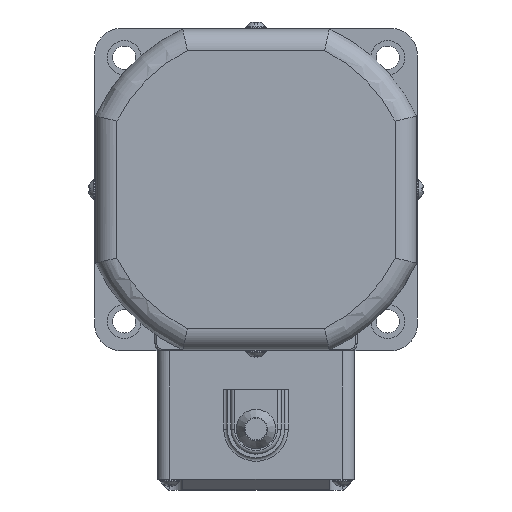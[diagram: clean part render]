
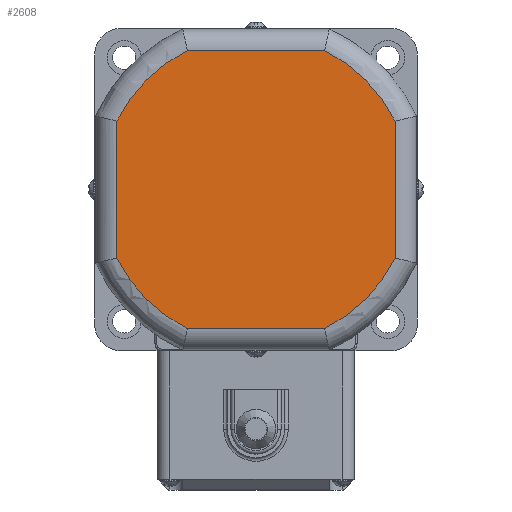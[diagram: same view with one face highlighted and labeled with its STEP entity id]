
A CAD part, left-side view. The second image highlights one B-rep face of the part: STEP entity #2608.
In plain terms, the highlighted planar face has unit normal (-1, 0, 0).
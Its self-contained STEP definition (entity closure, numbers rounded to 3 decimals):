
#2533=CARTESIAN_POINT('',(-17.8,0.,0.));
#2534=DIRECTION('',(1.0,0.0,0.0));
#2535=DIRECTION('',(0.0,0.0,-1.0));
#2536=AXIS2_PLACEMENT_3D('',#2533,#2534,#2535);
#2537=PLANE('',#2536);
#2538=CARTESIAN_POINT('',(-17.8,38.8,-19.108));
#2539=VERTEX_POINT('',#2538);
#2540=CARTESIAN_POINT('',(-17.8,38.8,19.108));
#2541=VERTEX_POINT('',#2540);
#2542=CARTESIAN_POINT('',(-17.8,38.8,-19.108));
#2543=DIRECTION('',(0.0,0.0,1.0));
#2544=VECTOR('',#2543,38.216);
#2545=LINE('',#2542,#2544);
#2546=EDGE_CURVE('',#2539,#2541,#2545,.T.);
#2547=ORIENTED_EDGE('',*,*,#2546,.F.);
#2548=CARTESIAN_POINT('',(-17.8,19.108,-38.8));
#2549=VERTEX_POINT('',#2548);
#2550=CARTESIAN_POINT('',(-17.8,0.,0.));
#2551=DIRECTION('',(1.,0.,0.));
#2552=DIRECTION('',(0.,0.707,-0.707));
#2553=AXIS2_PLACEMENT_3D('',#2550,#2551,#2552);
#2554=CIRCLE('',#2553,43.25);
#2555=EDGE_CURVE('',#2549,#2539,#2554,.T.);
#2556=ORIENTED_EDGE('',*,*,#2555,.F.);
#2557=CARTESIAN_POINT('',(-17.8,-19.108,-38.8));
#2558=VERTEX_POINT('',#2557);
#2559=CARTESIAN_POINT('',(-17.8,-19.108,-38.8));
#2560=DIRECTION('',(0.0,1.0,0.0));
#2561=VECTOR('',#2560,38.216);
#2562=LINE('',#2559,#2561);
#2563=EDGE_CURVE('',#2558,#2549,#2562,.T.);
#2564=ORIENTED_EDGE('',*,*,#2563,.F.);
#2565=CARTESIAN_POINT('',(-17.8,-38.8,-19.108));
#2566=VERTEX_POINT('',#2565);
#2567=CARTESIAN_POINT('',(-17.8,0.,0.));
#2568=DIRECTION('',(1.0,0.,0.));
#2569=DIRECTION('',(0.,-0.707,-0.707));
#2570=AXIS2_PLACEMENT_3D('',#2567,#2568,#2569);
#2571=CIRCLE('',#2570,43.25);
#2572=EDGE_CURVE('',#2566,#2558,#2571,.T.);
#2573=ORIENTED_EDGE('',*,*,#2572,.F.);
#2574=CARTESIAN_POINT('',(-17.8,-38.8,19.108));
#2575=VERTEX_POINT('',#2574);
#2576=CARTESIAN_POINT('',(-17.8,-38.8,19.108));
#2577=DIRECTION('',(0.0,0.0,-1.0));
#2578=VECTOR('',#2577,38.216);
#2579=LINE('',#2576,#2578);
#2580=EDGE_CURVE('',#2575,#2566,#2579,.T.);
#2581=ORIENTED_EDGE('',*,*,#2580,.F.);
#2582=CARTESIAN_POINT('',(-17.8,-19.108,38.8));
#2583=VERTEX_POINT('',#2582);
#2584=CARTESIAN_POINT('',(-17.8,0.,0.));
#2585=DIRECTION('',(1.0,0.,0.));
#2586=DIRECTION('',(0.,-0.707,0.707));
#2587=AXIS2_PLACEMENT_3D('',#2584,#2585,#2586);
#2588=CIRCLE('',#2587,43.25);
#2589=EDGE_CURVE('',#2583,#2575,#2588,.T.);
#2590=ORIENTED_EDGE('',*,*,#2589,.F.);
#2591=CARTESIAN_POINT('',(-17.8,19.108,38.8));
#2592=VERTEX_POINT('',#2591);
#2593=CARTESIAN_POINT('',(-17.8,19.108,38.8));
#2594=DIRECTION('',(0.0,-1.0,0.0));
#2595=VECTOR('',#2594,38.216);
#2596=LINE('',#2593,#2595);
#2597=EDGE_CURVE('',#2592,#2583,#2596,.T.);
#2598=ORIENTED_EDGE('',*,*,#2597,.F.);
#2599=CARTESIAN_POINT('',(-17.8,0.,0.));
#2600=DIRECTION('',(1.0,0.,0.));
#2601=DIRECTION('',(0.,0.707,0.707));
#2602=AXIS2_PLACEMENT_3D('',#2599,#2600,#2601);
#2603=CIRCLE('',#2602,43.25);
#2604=EDGE_CURVE('',#2541,#2592,#2603,.T.);
#2605=ORIENTED_EDGE('',*,*,#2604,.F.);
#2606=EDGE_LOOP('',(#2547,#2556,#2564,#2573,#2581,#2590,#2598,#2605));
#2607=FACE_OUTER_BOUND('',#2606,.T.);
#2608=ADVANCED_FACE('',(#2607),#2537,.F.);
